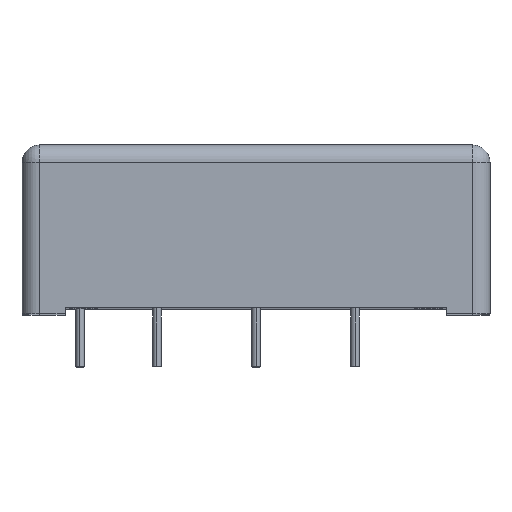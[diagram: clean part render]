
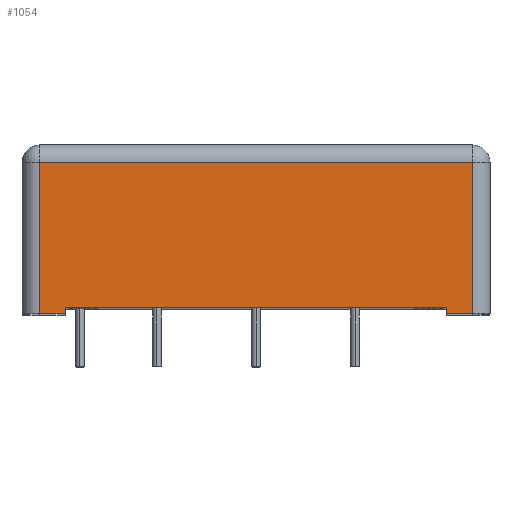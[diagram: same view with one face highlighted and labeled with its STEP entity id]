
A CAD part, top view. The second image highlights one B-rep face of the part: STEP entity #1054.
In plain terms, the highlighted planar face has unit normal (0, 0, 1).
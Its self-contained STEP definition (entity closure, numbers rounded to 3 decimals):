
#66 = DIRECTION ( 'NONE',  ( -1., 0., 0. ) ) ;
#127 = CARTESIAN_POINT ( 'NONE',  ( 25., -0.7, 37. ) ) ;
#192 = DIRECTION ( 'NONE',  ( 0., 1., 0. ) ) ;
#220 = LINE ( 'NONE', #2860, #4477 ) ;
#614 = FACE_OUTER_BOUND ( 'NONE', #2382, .T. ) ;
#686 = CARTESIAN_POINT ( 'NONE',  ( -25., 16.8, 37. ) ) ;
#996 = CARTESIAN_POINT ( 'NONE',  ( -27., 18.8, 37. ) ) ;
#1054 = ADVANCED_FACE ( 'NONE', ( #614 ), #5027, .F. ) ;
#1075 = EDGE_CURVE ( 'NONE', #3575, #1887, #4089, .T. ) ;
#1079 = ORIENTED_EDGE ( 'NONE', *, *, #2818, .T. ) ;
#1081 = CARTESIAN_POINT ( 'NONE',  ( 22., -0.7, 37. ) ) ;
#1158 = LINE ( 'NONE', #3755, #5432 ) ;
#1159 = VERTEX_POINT ( 'NONE', #2698 ) ;
#1171 = VERTEX_POINT ( 'NONE', #4356 ) ;
#1201 = ORIENTED_EDGE ( 'NONE', *, *, #3304, .F. ) ;
#1337 = CARTESIAN_POINT ( 'NONE',  ( 22., -0.7, 37. ) ) ;
#1362 = CARTESIAN_POINT ( 'NONE',  ( 25., 16.8, 37. ) ) ;
#1416 = DIRECTION ( 'NONE',  ( -1., 0., 0. ) ) ;
#1552 = DIRECTION ( 'NONE',  ( 0., -1., 0. ) ) ;
#1887 = VERTEX_POINT ( 'NONE', #1081 ) ;
#2013 = CARTESIAN_POINT ( 'NONE',  ( 25., 18.8, 37. ) ) ;
#2274 = ORIENTED_EDGE ( 'NONE', *, *, #4269, .T. ) ;
#2317 = LINE ( 'NONE', #3620, #2509 ) ;
#2323 = VECTOR ( 'NONE', #2922, 1000. ) ;
#2359 = EDGE_CURVE ( 'NONE', #1171, #1159, #2317, .T. ) ;
#2382 = EDGE_LOOP ( 'NONE', ( #3672, #1079, #2274, #2543, #4281, #3200, #1201, #2624 ) ) ;
#2494 = VERTEX_POINT ( 'NONE', #686 ) ;
#2509 = VECTOR ( 'NONE', #1416, 1000. ) ;
#2539 = EDGE_CURVE ( 'NONE', #2884, #5611, #3441, .T. ) ;
#2543 = ORIENTED_EDGE ( 'NONE', *, *, #2359, .F. ) ;
#2624 = ORIENTED_EDGE ( 'NONE', *, *, #1075, .F. ) ;
#2674 = VECTOR ( 'NONE', #5461, 1000. ) ;
#2698 = CARTESIAN_POINT ( 'NONE',  ( -25., -0.7, 37. ) ) ;
#2818 = EDGE_CURVE ( 'NONE', #3178, #2494, #4029, .T. ) ;
#2823 = DIRECTION ( 'NONE',  ( 0., 0., -1. ) ) ;
#2860 = CARTESIAN_POINT ( 'NONE',  ( -25., 18.8, 37. ) ) ;
#2884 = VERTEX_POINT ( 'NONE', #5672 ) ;
#2922 = DIRECTION ( 'NONE',  ( 1., 0., 0. ) ) ;
#2955 = CARTESIAN_POINT ( 'NONE',  ( 25., -0.7, 37. ) ) ;
#3178 = VERTEX_POINT ( 'NONE', #1362 ) ;
#3189 = CARTESIAN_POINT ( 'NONE',  ( -25., 16.8, 37. ) ) ;
#3200 = ORIENTED_EDGE ( 'NONE', *, *, #2539, .T. ) ;
#3304 = EDGE_CURVE ( 'NONE', #1887, #5611, #5726, .T. ) ;
#3429 = VECTOR ( 'NONE', #3567, 1000. ) ;
#3441 = LINE ( 'NONE', #3873, #2323 ) ;
#3567 = DIRECTION ( 'NONE',  ( 0., 1., 0. ) ) ;
#3575 = VERTEX_POINT ( 'NONE', #2955 ) ;
#3620 = CARTESIAN_POINT ( 'NONE',  ( -22., -0.7, 37. ) ) ;
#3626 = EDGE_CURVE ( 'NONE', #1171, #2884, #1158, .T. ) ;
#3672 = ORIENTED_EDGE ( 'NONE', *, *, #4156, .T. ) ;
#3755 = CARTESIAN_POINT ( 'NONE',  ( -22., -0.7, 37. ) ) ;
#3873 = CARTESIAN_POINT ( 'NONE',  ( -27., 0., 37. ) ) ;
#4029 = LINE ( 'NONE', #3189, #4529 ) ;
#4089 = LINE ( 'NONE', #127, #2674 ) ;
#4156 = EDGE_CURVE ( 'NONE', #3575, #3178, #5618, .T. ) ;
#4218 = DIRECTION ( 'NONE',  ( 0., 1., 0. ) ) ;
#4269 = EDGE_CURVE ( 'NONE', #2494, #1159, #220, .T. ) ;
#4281 = ORIENTED_EDGE ( 'NONE', *, *, #3626, .T. ) ;
#4356 = CARTESIAN_POINT ( 'NONE',  ( -22., -0.7, 37. ) ) ;
#4422 = AXIS2_PLACEMENT_3D ( 'NONE', #996, #2823, #4637 ) ;
#4477 = VECTOR ( 'NONE', #1552, 1000. ) ;
#4529 = VECTOR ( 'NONE', #66, 1000. ) ;
#4534 = CARTESIAN_POINT ( 'NONE',  ( 22., 0., 37. ) ) ;
#4637 = DIRECTION ( 'NONE',  ( -1., 0., 0. ) ) ;
#5027 = PLANE ( 'NONE',  #4422 ) ;
#5432 = VECTOR ( 'NONE', #4218, 1000. ) ;
#5461 = DIRECTION ( 'NONE',  ( -1., 0., 0. ) ) ;
#5522 = VECTOR ( 'NONE', #192, 1000. ) ;
#5611 = VERTEX_POINT ( 'NONE', #4534 ) ;
#5618 = LINE ( 'NONE', #2013, #5522 ) ;
#5672 = CARTESIAN_POINT ( 'NONE',  ( -22., 0., 37. ) ) ;
#5726 = LINE ( 'NONE', #1337, #3429 ) ;
